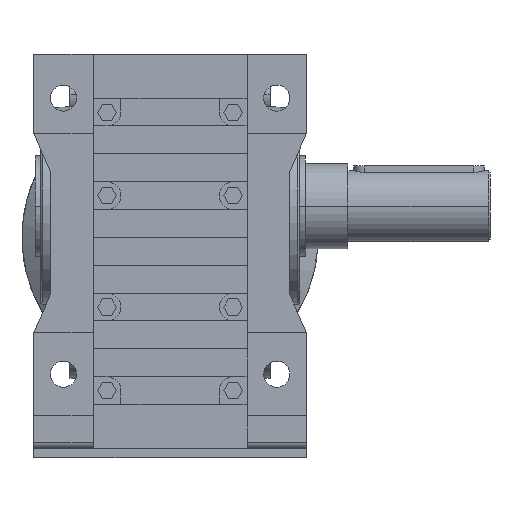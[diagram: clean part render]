
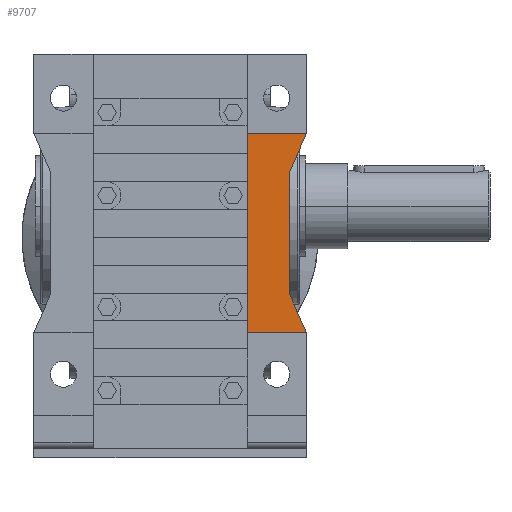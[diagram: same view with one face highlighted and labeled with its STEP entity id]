
A CAD part, top view. The second image highlights one B-rep face of the part: STEP entity #9707.
In plain terms, the highlighted planar face has unit normal (0, 0, 1).
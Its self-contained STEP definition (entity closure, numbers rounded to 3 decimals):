
#474 = PLANE('',#475);
#475 = AXIS2_PLACEMENT_3D('',#476,#477,#478);
#476 = CARTESIAN_POINT('',(101.,29.,132.));
#477 = DIRECTION('',(0.916,-0.401,0.));
#478 = DIRECTION('',(0.401,0.916,0.));
#502 = PLANE('',#503);
#503 = AXIS2_PLACEMENT_3D('',#504,#505,#506);
#504 = CARTESIAN_POINT('',(101.,-75.,132.));
#505 = DIRECTION('',(1.,0.,0.));
#506 = DIRECTION('',(0.,1.,0.));
#530 = PLANE('',#531);
#531 = AXIS2_PLACEMENT_3D('',#532,#533,#534);
#532 = CARTESIAN_POINT('',(115.,-107.,132.));
#533 = DIRECTION('',(0.916,0.401,0.));
#534 = DIRECTION('',(-0.401,0.916,0.));
#870 = PLANE('',#871);
#871 = AXIS2_PLACEMENT_3D('',#872,#873,#874);
#872 = CARTESIAN_POINT('',(115.,-107.,132.));
#873 = DIRECTION('',(0.,-1.,0.));
#874 = DIRECTION('',(0.,0.,-1.));
#898 = PLANE('',#899);
#899 = AXIS2_PLACEMENT_3D('',#900,#901,#902);
#900 = CARTESIAN_POINT('',(65.,128.,112.29));
#901 = DIRECTION('',(1.,0.,0.));
#902 = DIRECTION('',(0.,0.,-1.));
#2389 = EDGE_CURVE('',#2390,#2392,#2394,.T.);
#2390 = VERTEX_POINT('',#2391);
#2391 = CARTESIAN_POINT('',(115.,61.,128.29));
#2392 = VERTEX_POINT('',#2393);
#2393 = CARTESIAN_POINT('',(101.,29.,128.29));
#2394 = SURFACE_CURVE('',#2395,(#2399,#2406),.PCURVE_S1.);
#2395 = LINE('',#2396,#2397);
#2396 = CARTESIAN_POINT('',(115.,61.,128.29));
#2397 = VECTOR('',#2398,1.);
#2398 = DIRECTION('',(-0.401,-0.916,
    0.));
#2399 = PCURVE('',#474,#2400);
#2400 = DEFINITIONAL_REPRESENTATION('',(#2401),#2405);
#2401 = LINE('',#2402,#2403);
#2402 = CARTESIAN_POINT('',(34.928,-3.71));
#2403 = VECTOR('',#2404,1.);
#2404 = DIRECTION('',(-1.,0.));
#2405 = ( GEOMETRIC_REPRESENTATION_CONTEXT(2) 
PARAMETRIC_REPRESENTATION_CONTEXT() REPRESENTATION_CONTEXT('2D SPACE',''
  ) );
#2406 = PCURVE('',#2407,#2412);
#2407 = PLANE('',#2408);
#2408 = AXIS2_PLACEMENT_3D('',#2409,#2410,#2411);
#2409 = CARTESIAN_POINT('',(115.,61.,128.29));
#2410 = DIRECTION('',(0.,0.,-1.));
#2411 = DIRECTION('',(0.,1.,0.));
#2412 = DEFINITIONAL_REPRESENTATION('',(#2413),#2417);
#2413 = LINE('',#2414,#2415);
#2414 = CARTESIAN_POINT('',(0.,0.));
#2415 = VECTOR('',#2416,1.);
#2416 = DIRECTION('',(-0.916,-0.401));
#2417 = ( GEOMETRIC_REPRESENTATION_CONTEXT(2) 
PARAMETRIC_REPRESENTATION_CONTEXT() REPRESENTATION_CONTEXT('2D SPACE',''
  ) );
#2811 = EDGE_CURVE('',#2812,#2814,#2816,.T.);
#2812 = VERTEX_POINT('',#2813);
#2813 = CARTESIAN_POINT('',(101.,-75.,128.29));
#2814 = VERTEX_POINT('',#2815);
#2815 = CARTESIAN_POINT('',(115.,-107.,128.29));
#2816 = SURFACE_CURVE('',#2817,(#2821,#2828),.PCURVE_S1.);
#2817 = LINE('',#2818,#2819);
#2818 = CARTESIAN_POINT('',(53.308,34.01,128.29));
#2819 = VECTOR('',#2820,1.);
#2820 = DIRECTION('',(0.401,-0.916,0.
    ));
#2821 = PCURVE('',#530,#2822);
#2822 = DEFINITIONAL_REPRESENTATION('',(#2823),#2827);
#2823 = LINE('',#2824,#2825);
#2824 = CARTESIAN_POINT('',(153.914,-3.71));
#2825 = VECTOR('',#2826,1.);
#2826 = DIRECTION('',(-1.,0.));
#2827 = ( GEOMETRIC_REPRESENTATION_CONTEXT(2) 
PARAMETRIC_REPRESENTATION_CONTEXT() REPRESENTATION_CONTEXT('2D SPACE',''
  ) );
#2828 = PCURVE('',#2407,#2829);
#2829 = DEFINITIONAL_REPRESENTATION('',(#2830),#2834);
#2830 = LINE('',#2831,#2832);
#2831 = CARTESIAN_POINT('',(-26.99,-61.692));
#2832 = VECTOR('',#2833,1.);
#2833 = DIRECTION('',(-0.916,0.401));
#2834 = ( GEOMETRIC_REPRESENTATION_CONTEXT(2) 
PARAMETRIC_REPRESENTATION_CONTEXT() REPRESENTATION_CONTEXT('2D SPACE',''
  ) );
#3806 = EDGE_CURVE('',#2392,#2812,#3807,.T.);
#3807 = SURFACE_CURVE('',#3808,(#3812,#3819),.PCURVE_S1.);
#3808 = LINE('',#3809,#3810);
#3809 = CARTESIAN_POINT('',(101.,61.,128.29));
#3810 = VECTOR('',#3811,1.);
#3811 = DIRECTION('',(0.,-1.,0.));
#3812 = PCURVE('',#502,#3813);
#3813 = DEFINITIONAL_REPRESENTATION('',(#3814),#3818);
#3814 = LINE('',#3815,#3816);
#3815 = CARTESIAN_POINT('',(136.,-3.71));
#3816 = VECTOR('',#3817,1.);
#3817 = DIRECTION('',(-1.,0.));
#3818 = ( GEOMETRIC_REPRESENTATION_CONTEXT(2) 
PARAMETRIC_REPRESENTATION_CONTEXT() REPRESENTATION_CONTEXT('2D SPACE',''
  ) );
#3819 = PCURVE('',#2407,#3820);
#3820 = DEFINITIONAL_REPRESENTATION('',(#3821),#3825);
#3821 = LINE('',#3822,#3823);
#3822 = CARTESIAN_POINT('',(0.,-14.));
#3823 = VECTOR('',#3824,1.);
#3824 = DIRECTION('',(-1.,0.));
#3825 = ( GEOMETRIC_REPRESENTATION_CONTEXT(2) 
PARAMETRIC_REPRESENTATION_CONTEXT() REPRESENTATION_CONTEXT('2D SPACE',''
  ) );
#4692 = PLANE('',#4693);
#4693 = AXIS2_PLACEMENT_3D('',#4694,#4695,#4696);
#4694 = CARTESIAN_POINT('',(115.,61.,132.));
#4695 = DIRECTION('',(0.,1.,0.));
#4696 = DIRECTION('',(0.,0.,1.));
#5922 = VERTEX_POINT('',#5923);
#5923 = CARTESIAN_POINT('',(65.,-107.,128.29));
#5944 = EDGE_CURVE('',#5945,#5922,#5947,.T.);
#5945 = VERTEX_POINT('',#5946);
#5946 = CARTESIAN_POINT('',(65.,61.,128.29));
#5947 = SURFACE_CURVE('',#5948,(#5952,#5959),.PCURVE_S1.);
#5948 = LINE('',#5949,#5950);
#5949 = CARTESIAN_POINT('',(65.,61.,128.29));
#5950 = VECTOR('',#5951,1.);
#5951 = DIRECTION('',(0.,-1.,0.));
#5952 = PCURVE('',#898,#5953);
#5953 = DEFINITIONAL_REPRESENTATION('',(#5954),#5958);
#5954 = LINE('',#5955,#5956);
#5955 = CARTESIAN_POINT('',(-16.,-67.));
#5956 = VECTOR('',#5957,1.);
#5957 = DIRECTION('',(0.,-1.));
#5958 = ( GEOMETRIC_REPRESENTATION_CONTEXT(2) 
PARAMETRIC_REPRESENTATION_CONTEXT() REPRESENTATION_CONTEXT('2D SPACE',''
  ) );
#5959 = PCURVE('',#2407,#5960);
#5960 = DEFINITIONAL_REPRESENTATION('',(#5961),#5965);
#5961 = LINE('',#5962,#5963);
#5962 = CARTESIAN_POINT('',(0.,-50.));
#5963 = VECTOR('',#5964,1.);
#5964 = DIRECTION('',(-1.,0.));
#5965 = ( GEOMETRIC_REPRESENTATION_CONTEXT(2) 
PARAMETRIC_REPRESENTATION_CONTEXT() REPRESENTATION_CONTEXT('2D SPACE',''
  ) );
#6018 = EDGE_CURVE('',#2814,#5922,#6019,.T.);
#6019 = SURFACE_CURVE('',#6020,(#6024,#6031),.PCURVE_S1.);
#6020 = LINE('',#6021,#6022);
#6021 = CARTESIAN_POINT('',(115.,-107.,128.29));
#6022 = VECTOR('',#6023,1.);
#6023 = DIRECTION('',(-1.,0.,0.));
#6024 = PCURVE('',#870,#6025);
#6025 = DEFINITIONAL_REPRESENTATION('',(#6026),#6030);
#6026 = LINE('',#6027,#6028);
#6027 = CARTESIAN_POINT('',(3.71,0.));
#6028 = VECTOR('',#6029,1.);
#6029 = DIRECTION('',(0.,-1.));
#6030 = ( GEOMETRIC_REPRESENTATION_CONTEXT(2) 
PARAMETRIC_REPRESENTATION_CONTEXT() REPRESENTATION_CONTEXT('2D SPACE',''
  ) );
#6031 = PCURVE('',#2407,#6032);
#6032 = DEFINITIONAL_REPRESENTATION('',(#6033),#6037);
#6033 = LINE('',#6034,#6035);
#6034 = CARTESIAN_POINT('',(-168.,0.));
#6035 = VECTOR('',#6036,1.);
#6036 = DIRECTION('',(0.,-1.));
#6037 = ( GEOMETRIC_REPRESENTATION_CONTEXT(2) 
PARAMETRIC_REPRESENTATION_CONTEXT() REPRESENTATION_CONTEXT('2D SPACE',''
  ) );
#9707 = ADVANCED_FACE('',(#9708),#2407,.F.);
#9708 = FACE_BOUND('',#9709,.T.);
#9709 = EDGE_LOOP('',(#9710,#9731,#9732,#9733,#9734,#9735));
#9710 = ORIENTED_EDGE('',*,*,#9711,.T.);
#9711 = EDGE_CURVE('',#2390,#5945,#9712,.T.);
#9712 = SURFACE_CURVE('',#9713,(#9717,#9724),.PCURVE_S1.);
#9713 = LINE('',#9714,#9715);
#9714 = CARTESIAN_POINT('',(115.,61.,128.29));
#9715 = VECTOR('',#9716,1.);
#9716 = DIRECTION('',(-1.,0.,0.));
#9717 = PCURVE('',#2407,#9718);
#9718 = DEFINITIONAL_REPRESENTATION('',(#9719),#9723);
#9719 = LINE('',#9720,#9721);
#9720 = CARTESIAN_POINT('',(0.,0.));
#9721 = VECTOR('',#9722,1.);
#9722 = DIRECTION('',(0.,-1.));
#9723 = ( GEOMETRIC_REPRESENTATION_CONTEXT(2) 
PARAMETRIC_REPRESENTATION_CONTEXT() REPRESENTATION_CONTEXT('2D SPACE',''
  ) );
#9724 = PCURVE('',#4692,#9725);
#9725 = DEFINITIONAL_REPRESENTATION('',(#9726),#9730);
#9726 = LINE('',#9727,#9728);
#9727 = CARTESIAN_POINT('',(-3.71,0.));
#9728 = VECTOR('',#9729,1.);
#9729 = DIRECTION('',(0.,-1.));
#9730 = ( GEOMETRIC_REPRESENTATION_CONTEXT(2) 
PARAMETRIC_REPRESENTATION_CONTEXT() REPRESENTATION_CONTEXT('2D SPACE',''
  ) );
#9731 = ORIENTED_EDGE('',*,*,#5944,.T.);
#9732 = ORIENTED_EDGE('',*,*,#6018,.F.);
#9733 = ORIENTED_EDGE('',*,*,#2811,.F.);
#9734 = ORIENTED_EDGE('',*,*,#3806,.F.);
#9735 = ORIENTED_EDGE('',*,*,#2389,.F.);
